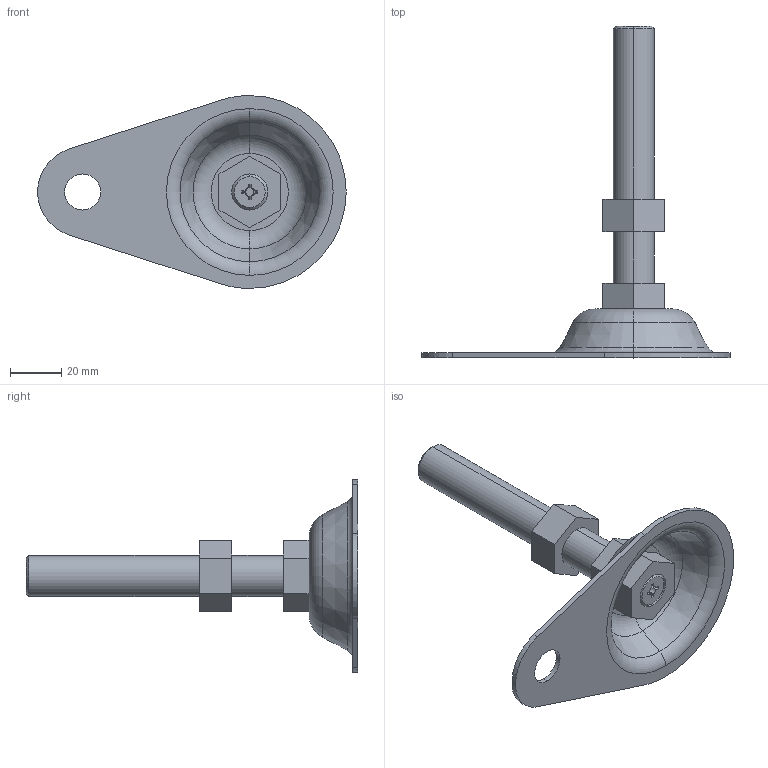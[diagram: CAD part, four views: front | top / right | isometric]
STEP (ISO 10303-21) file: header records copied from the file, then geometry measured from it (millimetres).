
FILE_DESCRIPTION (( 'STEP AP214' ), '1' );
FILE_NAME ('EA18S-16100.STEP', '2016-01-17T16:51:58', ( '' ), ( '' ), 'SwSTEP 2.0', 'SolidWorks 2012', '' );
FILE_SCHEMA (( 'AUTOMOTIVE_DESIGN' ));
Length unit declared in the file: millimetre
Products named in the file (1): EA18S-16100
Bounding box: 119.94 x 129 x 75 mm (x, y, z)
Volume: 49005.8 mm3; surface area: 23791.7 mm2
Topology: 1 solids, 1 shells, 75 faces, 180 edges, 116 vertices
Faces by surface type: plane 43, cone 12, cylinder 12, torus 8
Entity records: 2248 total; most frequent: CARTESIAN_POINT 420, DIRECTION 384, ORIENTED_EDGE 360, EDGE_CURVE 180, AXIS2_PLACEMENT_3D 136, VERTEX_POINT 116, VECTOR 112, LINE 112
